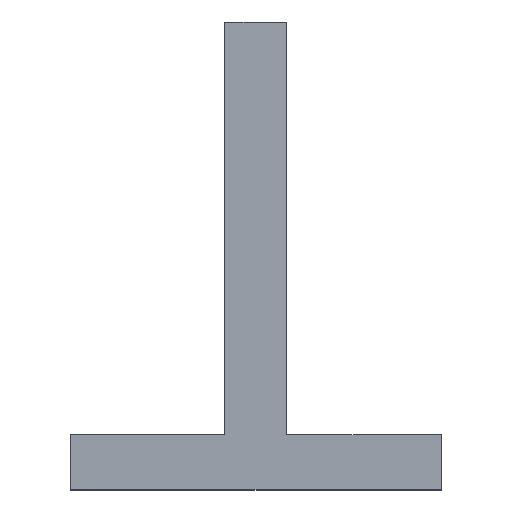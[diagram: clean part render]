
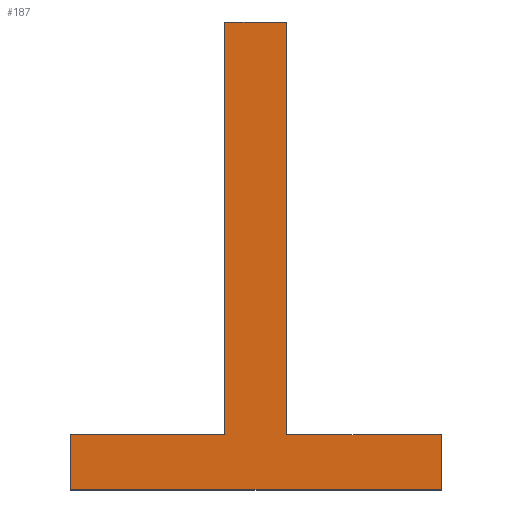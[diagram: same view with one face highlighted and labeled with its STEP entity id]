
A CAD part, top view. The second image highlights one B-rep face of the part: STEP entity #187.
In plain terms, the highlighted planar face has unit normal (0, 0, 1).
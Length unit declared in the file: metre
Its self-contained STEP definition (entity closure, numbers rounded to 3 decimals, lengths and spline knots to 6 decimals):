
#52=ORIENTED_EDGE('',*,*,#82,.T.);
#53=ORIENTED_EDGE('',*,*,#60,.T.);
#54=ORIENTED_EDGE('',*,*,#64,.T.);
#55=ORIENTED_EDGE('',*,*,#67,.T.);
#56=ORIENTED_EDGE('',*,*,#70,.T.);
#57=ORIENTED_EDGE('',*,*,#73,.T.);
#58=ORIENTED_EDGE('',*,*,#76,.T.);
#59=ORIENTED_EDGE('',*,*,#79,.T.);
#60=EDGE_CURVE('',#84,#85,#100,.T.);
#64=EDGE_CURVE('',#85,#88,#104,.T.);
#67=EDGE_CURVE('',#88,#90,#107,.T.);
#70=EDGE_CURVE('',#90,#92,#110,.F.);
#73=EDGE_CURVE('',#92,#94,#113,.F.);
#76=EDGE_CURVE('',#94,#96,#116,.T.);
#79=EDGE_CURVE('',#96,#98,#119,.F.);
#82=EDGE_CURVE('',#98,#84,#122,.T.);
#84=VERTEX_POINT('',#252);
#85=VERTEX_POINT('',#253);
#88=VERTEX_POINT('',#261);
#90=VERTEX_POINT('',#267);
#92=VERTEX_POINT('',#273);
#94=VERTEX_POINT('',#279);
#96=VERTEX_POINT('',#285);
#98=VERTEX_POINT('',#291);
#100=LINE('',#251,#124);
#104=LINE('',#260,#128);
#107=LINE('',#266,#131);
#110=LINE('',#272,#134);
#113=LINE('',#278,#137);
#116=LINE('',#284,#140);
#119=LINE('',#290,#143);
#122=LINE('',#296,#146);
#124=VECTOR('',#207,1.);
#128=VECTOR('',#213,1.);
#131=VECTOR('',#218,1.);
#134=VECTOR('',#223,1.);
#137=VECTOR('',#228,1.);
#140=VECTOR('',#233,1.);
#143=VECTOR('',#238,1.);
#146=VECTOR('',#243,1.);
#157=EDGE_LOOP('',(#52,#53,#54,#55,#56,#57,#58,#59));
#167=FACE_BOUND('',#157,.T.);
#177=PLANE('',#202);
#187=ADVANCED_FACE('',(#167),#177,.F.);
#202=AXIS2_PLACEMENT_3D('',#299,#247,#248);
#207=DIRECTION('',(0.,-1.,0.));
#213=DIRECTION('',(-1.,0.,0.));
#218=DIRECTION('',(0.,-1.,0.));
#223=DIRECTION('',(-1.,0.,0.));
#228=DIRECTION('',(0.,-1.,0.));
#233=DIRECTION('',(-1.,0.,0.));
#238=DIRECTION('',(0.,-1.,0.));
#243=DIRECTION('',(-1.,0.,0.));
#247=DIRECTION('',(0.,0.,-1.));
#248=DIRECTION('',(0.,-1.,0.));
#251=CARTESIAN_POINT('',(-0.040038,0.00635,-0.03));
#252=CARTESIAN_POINT('',(-0.040038,0.006759,-0.03));
#253=CARTESIAN_POINT('',(-0.040038,0.006038,-0.03));
#260=CARTESIAN_POINT('',(-0.04158,0.006038,-0.03));
#261=CARTESIAN_POINT('',(-0.040307,0.006038,-0.03));
#266=CARTESIAN_POINT('',(-0.040307,0.00635,-0.03));
#267=CARTESIAN_POINT('',(-0.040307,0.005942,-0.03));
#272=CARTESIAN_POINT('',(-0.04158,0.005942,-0.03));
#273=CARTESIAN_POINT('',(-0.03966,0.005942,-0.03));
#278=CARTESIAN_POINT('',(-0.03966,0.00635,-0.03));
#279=CARTESIAN_POINT('',(-0.03966,0.006038,-0.03));
#284=CARTESIAN_POINT('',(-0.04158,0.006038,-0.03));
#285=CARTESIAN_POINT('',(-0.03993,0.006038,-0.03));
#290=CARTESIAN_POINT('',(-0.03993,0.00635,-0.03));
#291=CARTESIAN_POINT('',(-0.03993,0.006759,-0.03));
#296=CARTESIAN_POINT('',(-0.04158,0.006759,-0.03));
#299=CARTESIAN_POINT('',(-0.04158,0.00635,-0.03));
